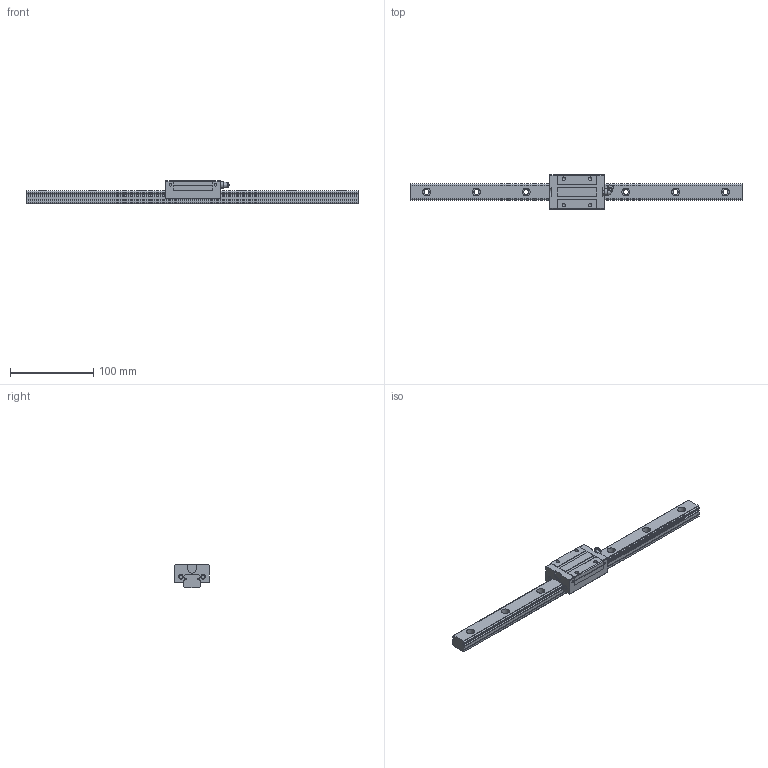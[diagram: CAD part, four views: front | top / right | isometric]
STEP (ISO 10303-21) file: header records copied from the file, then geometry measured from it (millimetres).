
FILE_DESCRIPTION((''),'2;1');
FILE_NAME('D:\製品 (図面)\カタログ用3D\リニアガイド関連\STEP形式\LGSR\LGSR20.stp','2010-06-02T16:01:30',('Tsuchiya'),(''),'Autodesk Inventor 10','Autodesk Inventor 10','');
FILE_SCHEMA(('AUTOMOTIVE_DESIGN { 1 0 10303 214 1 1 1 1 }'));
Length unit declared in the file: millimetre
Products named in the file (3): LGSR20; LGSR201; LGSR202
Assembly tree (2 placements, depth 2):
  LGSR20
    LGSR201
    LGSR202
Bounding box: 400 x 42 x 28 mm (x, y, z)
Volume: 158717.4 mm3; surface area: 46031.6 mm2
Topology: 2 solids, 2 shells, 181 faces, 467 edges, 308 vertices
Faces by surface type: plane 84, cylinder 49, bspline 41, cone 4, sphere 3
Full cylindrical faces by diameter (mm): 2.9 x2, 4.134 x2, 4.5 x2, 5.5 x2, 7 x1, 7.7 x1
Entity records: 5824 total; most frequent: CARTESIAN_POINT 1556, DIRECTION 850, ORIENTED_EDGE 824, EDGE_CURVE 412, VERTEX_POINT 298, AXIS2_PLACEMENT_3D 297, EDGE_LOOP 258, VECTOR 256
